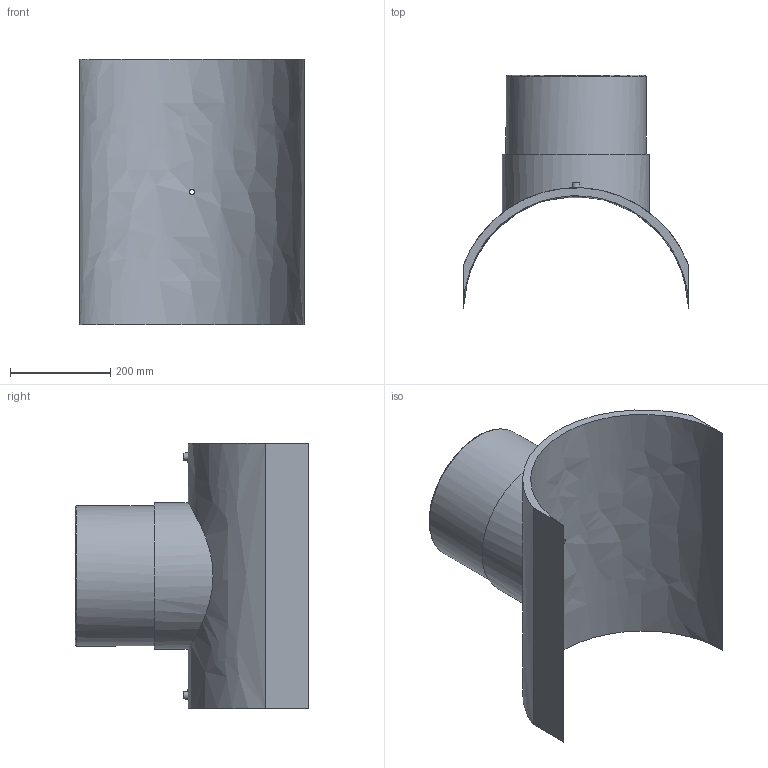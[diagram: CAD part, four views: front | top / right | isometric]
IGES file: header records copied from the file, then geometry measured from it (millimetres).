
Global section: file name: 495803450280T; native system: Autodesk Inventor 2019; preprocessor: unknown; author: KIM; date: 20240404.115103; units: millimetre
Bounding box: 450 x 466 x 530 mm (x, y, z)
Volume: 11193419.2 mm3; surface area: 1192848.7 mm2
Topology: 1 solids, 1 shells, 29 faces, 60 edges, 43 vertices
Faces by surface type: bspline 29
